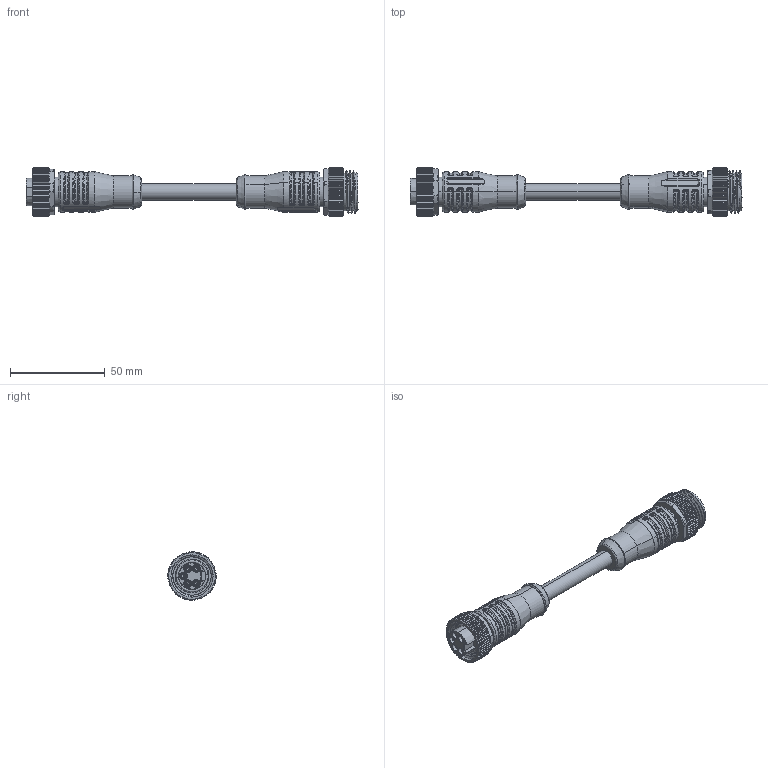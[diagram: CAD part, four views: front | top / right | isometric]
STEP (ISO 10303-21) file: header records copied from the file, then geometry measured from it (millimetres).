
FILE_DESCRIPTION (( 'STEP AP203' ), '1' );
FILE_NAME ('0PI041-XXX.STEP', '2023-11-17T07:33:06', ( 'ADMIN' ), ( '' ), 'SwSTEP 2.0', 'SolidWorks 2016', '' );
FILE_SCHEMA (( 'CONFIG_CONTROL_DESIGN' ));
Products named in the file (1): 0PI041-XXX
Bounding box: 175.2 x 25.5 x 25.5 mm (x, y, z)
Volume: 39740.7 mm3; surface area: 18421.3 mm2
Topology: 1 solids, 1 shells, 1621 faces, 4055 edges, 2377 vertices
Faces by surface type: cone 467, plane 421, cylinder 373, bspline 360
Entity records: 72174 total; most frequent: CARTESIAN_POINT 39893, ORIENTED_EDGE 7968, DIRECTION 4952, EDGE_CURVE 3984, VERTEX_POINT 2377, B_SPLINE_CURVE_WITH_KNOTS 2074, AXIS2_PLACEMENT_3D 2017, EDGE_LOOP 1673
